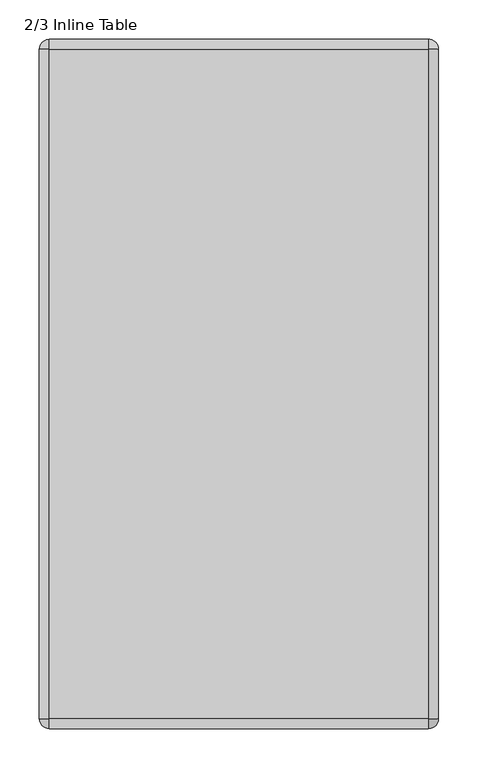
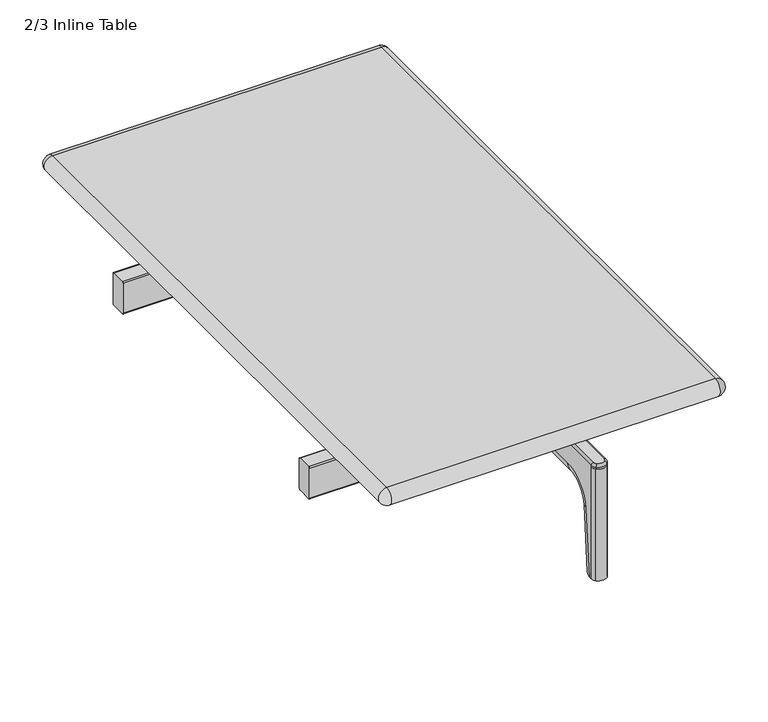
"""IFC4 building model written with IfcOpenShell, lengths in millimetres: furniture geometry, Stylex - NYC - Table : 2/3 Inline Table."""

from ifc_helpers import new_model, si_unit, point, frame, frame_2d, origin, place, context, project, spatial, polyline, circle_curve, ellipse_curve, trimmed, segment, composite_curve, outline, extrude, source, transform, mapped, element, save
from ifc_brep_helpers import plane_surface, cylinder_surface, revolved_surface, advanced_brep


def furniture_2_3_inline_table_7cb0f604(model_context):
    return source(origin(), model_context, "Body", "SolidModel", [
        advanced_brep(
        [(93.4701881, -378.0154739, 0.0), (109.7298119, -378.0154739, 0.0), (109.7298119, -378.0154739, 173.4104691), (93.4701881, -378.0154739, 173.4104691), (112.7125, -371.5725657, 0.0), (112.7125, -371.5725657, 173.4104691), (90.4875, -371.5725657, 0.0), (90.4875, -371.5725657, 173.4104691), (90.4875, -371.5725657, 176.5854691), (93.4701881, -378.0154739, 176.5854691), (95.5244754, -375.594621, 179.7604691), (93.6625, -371.5725657, 179.7604691), (109.7298119, -378.0154739, 176.5854691), (107.6755246, -375.594621, 179.7604691), (112.7125, -371.5725657, 176.5854691), (109.5375, -371.5725657, 179.7604691), (109.5375, -262.257522, 179.7604691), (107.95, -262.257522, 179.7604691), (95.25, -262.257522, 179.7604691), (93.6625, -262.257522, 179.7604691), (90.4875, 358.8290995, 101.6111748), (90.4875, 311.893435, 144.6197874), (90.4875, -311.893435, 144.6197874), (90.4875, -358.8290995, 101.6111748), (90.4875, -367.7189254, 0.0), (90.4875, -262.257522, 176.5854691), (90.4875, -252.7455757, 185.6119691), (90.4875, -251.0740792, 217.506021), (90.4875, 251.0339077, 217.506021), (90.4875, 252.7054041, 185.6119691), (90.4875, 262.2173504, 176.5854691), (90.4875, 371.5725657, 176.5854691), (90.4875, 371.5725657, 173.4104691), (90.4875, 371.5725657, 0.0), (90.4875, 367.7189254, 0.0), (112.7125, -358.8290995, 101.6111748), (112.7125, -311.893435, 144.6197874), (112.7125, 311.893435, 144.6197874), (112.7125, 358.8290995, 101.6111748), (112.7125, 367.7189254, 0.0), (112.7125, 371.5725657, 0.0), (112.7125, 371.5725657, 173.4104691), (112.7125, 371.5725657, 176.5854691), (112.7125, 262.2173504, 176.5854691), (112.7125, 252.7054041, 185.6119691), (112.7125, 251.0339077, 217.506021), (112.7125, -251.0740792, 217.506021), (112.7125, -252.7455757, 185.6119691), (112.7125, -262.257522, 176.5854691), (112.7125, -367.7189254, 0.0), (96.5129306, -343.3185004, 100.2541732), (96.5129306, -352.089604, 0.0), (106.6870694, -343.3185004, 100.2541732), (106.6870694, -352.089604, 0.0), (96.5129306, -311.893435, 129.0499403), (106.6870694, -311.893435, 129.0499403), (96.5129306, 311.893435, 129.0499403), (106.6870694, 311.893435, 129.0499403), (96.5129306, 343.3185004, 100.2541732), (106.6870694, 343.3185004, 100.2541732), (96.5129306, 352.089604, 0.0), (106.6870694, 352.089604, 0.0), (93.4701881, 378.0154739, 0.0), (109.7298119, 378.0154739, 0.0), (107.95, -255.9162244, 185.7781358), (95.25, -255.9162244, 185.7781358), (109.5375, -255.9162244, 185.7781358), (109.5375, -254.0870417, 220.681021), (93.6625, -254.0870417, 220.681021), (93.6625, -255.9162244, 185.7781358), (93.6625, 254.0468702, 220.681021), (109.5375, 254.0468702, 220.681021), (107.95, 255.8760529, 185.7781358), (95.25, 255.8760529, 185.7781358), (93.6625, 255.8760529, 185.7781358), (109.5375, 255.8760529, 185.7781358), (107.95, 262.2173504, 179.7604691), (95.25, 262.2173504, 179.7604691), (109.5375, 262.2173504, 179.7604691), (109.5375, 371.5725657, 179.7604691), (107.6755246, 375.594621, 179.7604691), (95.5244754, 375.594621, 179.7604691), (93.6625, 371.5725657, 179.7604691), (93.6625, 262.2173504, 179.7604691), (93.4701881, 378.0154739, 173.4104691), (109.7298119, 378.0154739, 173.4104691), (93.4701881, 378.0154739, 176.5854691), (109.7298119, 378.0154739, 176.5854691)],
        [
            (0, 1, circle_curve(frame((101.6, -368.4349839, 0.0), z_axis=(0.0, 0.0, 1.0), x_axis=(-1.0, 0.0, 0.0)), 12.5650161)),
            (1, 2),
            (2, 3, circle_curve(frame((101.6, -368.4349839, 173.4104691), z_axis=(0.0, 0.0, -1.0), x_axis=(-1.0, 0.0, 0.0)), 12.5650161)),
            (3, 0),
            (1, 4, circle_curve(frame((104.2624891, -371.5725657, 0.0), z_axis=(0.0, 0.0, 1.0), x_axis=(-1.0, 0.0, 0.0)), 8.4500109)),
            (4, 5),
            (5, 2, circle_curve(frame((104.2624891, -371.5725657, 173.4104691), z_axis=(0.0, 0.0, -1.0), x_axis=(-1.0, 0.0, 0.0)), 8.4500109)),
            (6, 0, circle_curve(frame((98.9375109, -371.5725657, 0.0), z_axis=(0.0, 0.0, 1.0), x_axis=(-1.0, 0.0, 0.0)), 8.4500109)),
            (3, 7, circle_curve(frame((98.9375109, -371.5725657, 173.4104691), z_axis=(0.0, 0.0, -1.0), x_axis=(-1.0, 0.0, 0.0)), 8.4500109)),
            (7, 6),
            (8, 9, circle_curve(frame((98.9375109, -371.5725657, 176.5854691), z_axis=(0.0, 0.0, 1.0), x_axis=(-1.0, 0.0, 0.0)), 8.4500109)),
            (9, 10, circle_curve(frame((95.5244754, -375.594621, 176.5854691), z_axis=(-0.7624733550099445, 0.647019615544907, 0.0), x_axis=(0.647019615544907, 0.7624733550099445, 0.0)), 3.175)),
            (10, 11, circle_curve(frame((98.9375109, -371.5725657, 179.7604691), z_axis=(0.0, 0.0, -1.0), x_axis=(-1.0, 0.0, 0.0)), 5.2750109)),
            (11, 8, circle_curve(frame((93.6625, -371.5725657, 176.5854691), z_axis=(0.0, -1.0, 0.0), x_axis=(1.0, 0.0, 0.0)), 3.175)),
            (8, 7),
            (3, 9),
            (9, 12, circle_curve(frame((101.6, -368.4349839, 176.5854691), z_axis=(0.0, 0.0, 1.0), x_axis=(-0.6470196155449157, -0.762473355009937, 0.0)), 12.5650161)),
            (12, 13, circle_curve(frame((107.6755246, -375.594621, 176.5854691), z_axis=(-0.7624733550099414, -0.6470196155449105, 0.0), x_axis=(-0.6470196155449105, 0.7624733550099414, 0.0)), 3.175)),
            (13, 10, circle_curve(frame((101.6, -368.4349839, 179.7604691), z_axis=(0.0, 0.0, -1.0), x_axis=(-0.6470196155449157, -0.762473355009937, 0.0)), 9.3900161)),
            (2, 12),
            (12, 14, circle_curve(frame((104.2624891, -371.5725657, 176.5854691), z_axis=(0.0, 0.0, 1.0), x_axis=(0.6470196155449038, -0.7624733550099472, 0.0)), 8.4500109)),
            (14, 15, circle_curve(frame((109.5375, -371.5725657, 176.5854691), z_axis=(0.0, -1.0, 0.0), x_axis=(-1.0, 0.0, 0.0)), 3.175)),
            (15, 13, circle_curve(frame((104.2624891, -371.5725657, 179.7604691), z_axis=(0.0, 0.0, -1.0), x_axis=(0.6470196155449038, -0.7624733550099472, 0.0)), 5.2750109)),
            (5, 14),
            (15, 16),
            (16, 17),
            (17, 18),
            (18, 19),
            (19, 11),
            (20, 21, circle_curve(frame((90.4875, 311.893435, 97.5048362), z_axis=(1.0, 0.0, 0.0), x_axis=(0.0, 0.0, 1.0)), 47.1149511)),
            (21, 22),
            (22, 23, circle_curve(frame((90.4875, -311.893435, 97.5048362), z_axis=(1.0, 0.0, 0.0), x_axis=(0.0, -0.9961946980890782, 0.08715574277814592)), 47.1149511)),
            (23, 24),
            (24, 6),
            (8, 25),
            (25, 26, circle_curve(frame((90.4875, -262.257522, 186.1104691), z_axis=(1.0, 0.0, 0.0), x_axis=(0.0, 0.9986295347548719, -0.0523359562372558)), 9.525)),
            (26, 27),
            (27, 28),
            (28, 29),
            (29, 30, circle_curve(frame((90.4875, 262.2173504, 186.1104691), z_axis=(1.0, 0.0, 0.0), x_axis=(0.0, 0.0, -1.0)), 9.525)),
            (30, 31),
            (31, 32),
            (32, 33),
            (33, 34),
            (34, 20),
            (35, 36, circle_curve(frame((112.7125, -311.893435, 97.5048362), z_axis=(-1.0, 0.0, 0.0), x_axis=(0.0, -0.9961946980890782, 0.08715574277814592)), 47.1149511)),
            (36, 37),
            (37, 38, circle_curve(frame((112.7125, 311.893435, 97.5048362), z_axis=(-1.0, 0.0, 0.0), x_axis=(0.0, 0.0, 1.0)), 47.1149511)),
            (38, 39),
            (39, 40),
            (40, 41),
            (41, 42),
            (42, 43),
            (43, 44, circle_curve(frame((112.7125, 262.2173504, 186.1104691), z_axis=(-1.0, 0.0, 0.0), x_axis=(0.0, -0.9986295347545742, -0.05233595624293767)), 9.525)),
            (44, 45),
            (45, 46),
            (46, 47),
            (47, 48, circle_curve(frame((112.7125, -262.257522, 186.1104691), z_axis=(-1.0, 0.0, 0.0), x_axis=(0.0, 0.0, -1.0)), 9.525)),
            (48, 14),
            (4, 49),
            (49, 35),
            (23, 50, circle_curve(frame((113.6166315, -358.8290995, 101.6111748), z_axis=(0.0, -0.08715574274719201, -0.9961946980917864), x_axis=(1.0, 0.0, 0.0)), 23.1291315)),
            (50, 51),
            (51, 24, ellipse_curve(frame((113.6166315, -367.7189254, 0.0), z_axis=(0.0, 0.0, 1.0), x_axis=(0.0, -1.0, 0.0)), 23.217481, 23.1291315)),
            (50, 52, circle_curve(frame((101.6, -347.9317414, 100.6577795), z_axis=(0.0, -0.08715574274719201, -0.9961946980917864), x_axis=(-1.0, 0.0, 0.0)), 6.8791835)),
            (52, 53),
            (53, 51, ellipse_curve(frame((101.6, -356.738156, 0.0), z_axis=(0.0, 0.0, 1.0), x_axis=(0.0, -1.0, 0.0)), 6.9054609, 6.8791835)),
            (52, 35, circle_curve(frame((89.5833685, -358.8290995, 101.6111748), z_axis=(0.0, -0.08715574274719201, -0.9961946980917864), x_axis=(-1.0, 0.0, 0.0)), 23.1291315)),
            (49, 53, ellipse_curve(frame((89.5833685, -367.7189254, 0.0), z_axis=(0.0, 0.0, 1.0), x_axis=(0.0, -1.0, 0.0)), 23.217481, 23.1291315)),
            (22, 54, circle_curve(frame((113.6166315, -311.893435, 144.6197874), z_axis=(0.0, -1.0, 0.0), x_axis=(1.0, 0.0, 0.0)), 23.1291315)),
            (54, 50, circle_curve(frame((96.5129306, -311.893435, 97.5048362), z_axis=(1.0, 0.0, 0.0), x_axis=(0.0, -0.9961946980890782, 0.08715574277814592)), 31.545104)),
            (54, 55, circle_curve(frame((101.6, -311.893435, 133.6808031), z_axis=(0.0, -1.0, 0.0), x_axis=(-1.0, 0.0, 0.0)), 6.8791835)),
            (55, 52, circle_curve(frame((106.6870694, -311.893435, 97.5048362), z_axis=(1.0, 0.0, 0.0), x_axis=(0.0, -0.9961946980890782, 0.08715574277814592)), 31.545104)),
            (55, 36, circle_curve(frame((89.5833685, -311.893435, 144.6197874), z_axis=(0.0, -1.0, 0.0), x_axis=(-1.0, 0.0, 0.0)), 23.1291315)),
            (21, 56, circle_curve(frame((113.6166315, 311.893435, 144.6197874), z_axis=(0.0, -1.0, 0.0), x_axis=(1.0, 0.0, 0.0)), 23.1291315)),
            (56, 54),
            (56, 57, circle_curve(frame((101.6, 311.893435, 133.6808031), z_axis=(0.0, -1.0, 0.0), x_axis=(-1.0, 0.0, 0.0)), 6.8791835)),
            (57, 55),
            (57, 37, circle_curve(frame((89.5833685, 311.893435, 144.6197874), z_axis=(0.0, -1.0, 0.0), x_axis=(-1.0, 0.0, 0.0)), 23.1291315)),
            (20, 58, circle_curve(frame((113.6166315, 358.8290995, 101.6111748), z_axis=(0.0, -0.0871557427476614, 0.9961946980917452), x_axis=(1.0, 0.0, 0.0)), 23.1291315)),
            (58, 56, circle_curve(frame((96.5129306, 311.893435, 97.5048362), z_axis=(1.0, 0.0, 0.0), x_axis=(0.0, 0.0, 1.0)), 31.545104)),
            (58, 59, circle_curve(frame((101.6, 347.9317414, 100.6577795), z_axis=(0.0, -0.08715574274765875, 0.9961946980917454), x_axis=(-1.0, 0.0, 0.0)), 6.8791835)),
            (59, 57, circle_curve(frame((106.6870694, 311.893435, 97.5048362), z_axis=(1.0, 0.0, 0.0), x_axis=(0.0, 0.0, 1.0)), 31.545104)),
            (59, 38, circle_curve(frame((89.5833685, 358.8290995, 101.6111748), z_axis=(0.0, -0.08715574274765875, 0.9961946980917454), x_axis=(-1.0, 0.0, 0.0)), 23.1291315)),
            (34, 60, ellipse_curve(frame((113.6166315, 367.7189254, 0.0), z_axis=(0.0, 0.0, 1.0), x_axis=(0.0, -1.0, 0.0)), 23.217481, 23.1291315)),
            (60, 58),
            (60, 61, ellipse_curve(frame((101.6, 356.738156, 0.0), z_axis=(0.0, 0.0, 1.0), x_axis=(0.0, -1.0, 0.0)), 6.9054609, 6.8791835)),
            (61, 59),
            (61, 39, ellipse_curve(frame((89.5833685, 367.7189254, 0.0), z_axis=(0.0, 0.0, 1.0), x_axis=(0.0, -1.0, 0.0)), 23.217481, 23.1291315)),
            (33, 62, circle_curve(frame((98.9375109, 371.5725657, 0.0), z_axis=(0.0, 0.0, -1.0), x_axis=(-1.0, 0.0, 0.0)), 8.4500109)),
            (62, 63, circle_curve(frame((101.6, 368.4349839, 0.0), z_axis=(0.0, 0.0, -1.0), x_axis=(-1.0, 0.0, 0.0)), 12.5650161)),
            (63, 40, circle_curve(frame((104.2624891, 371.5725657, 0.0), z_axis=(0.0, 0.0, -1.0), x_axis=(-1.0, 0.0, 0.0)), 8.4500109)),
            (17, 64, circle_curve(frame((107.95, -262.257522, 186.1104691), z_axis=(1.0, 0.0, 0.0), x_axis=(0.0, -1.0, 0.0)), 6.35)),
            (64, 65),
            (65, 18, circle_curve(frame((95.25, -262.257522, 186.1104691), z_axis=(-1.0, 0.0, 0.0), x_axis=(0.0, -1.0, 0.0)), 6.35)),
            (64, 66),
            (66, 67),
            (67, 68),
            (68, 69),
            (69, 65),
            (70, 68),
            (67, 71),
            (71, 70),
            (72, 73),
            (73, 74),
            (74, 70),
            (71, 75),
            (75, 72),
            (72, 76, circle_curve(frame((107.95, 262.2173504, 186.1104691), z_axis=(1.0, 0.0, 0.0), x_axis=(0.0, -1.0, 0.0)), 6.35)),
            (76, 77),
            (77, 73, circle_curve(frame((95.25, 262.2173504, 186.1104691), z_axis=(-1.0, 0.0, 0.0), x_axis=(0.0, -1.0, 0.0)), 6.35)),
            (76, 78),
            (78, 79),
            (79, 80, circle_curve(frame((104.2624891, 371.5725657, 179.7604691), z_axis=(0.0, 0.0, 1.0), x_axis=(0.6470196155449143, 0.7624733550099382, 0.0)), 5.2750109)),
            (80, 81, circle_curve(frame((101.6, 368.4349839, 179.7604691), z_axis=(0.0, 0.0, 1.0), x_axis=(-0.6470196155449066, 0.7624733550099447, 0.0)), 9.3900161)),
            (81, 82, circle_curve(frame((98.9375109, 371.5725657, 179.7604691), z_axis=(0.0, 0.0, 1.0), x_axis=(-1.0, 0.0, 0.0)), 5.2750109)),
            (82, 83),
            (83, 77),
            (62, 84),
            (84, 85, circle_curve(frame((101.6, 368.4349839, 173.4104691), z_axis=(0.0, 0.0, -1.0), x_axis=(-1.0, 0.0, 0.0)), 12.5650161)),
            (85, 63),
            (85, 41, circle_curve(frame((104.2624891, 371.5725657, 173.4104691), z_axis=(0.0, 0.0, -1.0), x_axis=(-1.0, 0.0, 0.0)), 8.4500109)),
            (32, 84, circle_curve(frame((98.9375109, 371.5725657, 173.4104691), z_axis=(0.0, 0.0, -1.0), x_axis=(-1.0, 0.0, 0.0)), 8.4500109)),
            (86, 31, circle_curve(frame((98.9375109, 371.5725657, 176.5854691), z_axis=(0.0, 0.0, 1.0), x_axis=(-1.0, 0.0, 0.0)), 8.4500109)),
            (31, 82, circle_curve(frame((93.6625, 371.5725657, 176.5854691), z_axis=(0.0, 1.0, 0.0), x_axis=(-1.0, 0.0, 0.0)), 3.175)),
            (81, 86, circle_curve(frame((95.5244754, 375.594621, 176.5854691), z_axis=(-0.7624733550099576, -0.6470196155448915, 0.0), x_axis=(-0.6470196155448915, 0.7624733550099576, 0.0)), 3.175)),
            (86, 84),
            (80, 87, circle_curve(frame((107.6755246, 375.594621, 176.5854691), z_axis=(-0.762473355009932, 0.6470196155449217, 0.0), x_axis=(0.6470196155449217, 0.762473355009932, 0.0)), 3.175)),
            (87, 86, circle_curve(frame((101.6, 368.4349839, 176.5854691), z_axis=(0.0, 0.0, 1.0), x_axis=(-0.6470196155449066, 0.7624733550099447, 0.0)), 12.5650161)),
            (87, 85),
            (79, 42, circle_curve(frame((109.5375, 371.5725657, 176.5854691), z_axis=(0.0, 1.0, 0.0), x_axis=(1.0, 0.0, 0.0)), 3.175)),
            (42, 87, circle_curve(frame((104.2624891, 371.5725657, 176.5854691), z_axis=(0.0, 0.0, 1.0), x_axis=(0.6470196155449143, 0.7624733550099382, 0.0)), 8.4500109)),
            (30, 83, circle_curve(frame((93.6625, 262.2173504, 176.5854691), z_axis=(0.0, 1.0, 0.0), x_axis=(0.0, 0.0, 1.0)), 3.175)),
            (29, 74, circle_curve(frame((93.6625, 252.7054041, 185.6119691), z_axis=(0.0, 0.05233595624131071, -0.9986295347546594), x_axis=(0.0, 0.9986295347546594, 0.05233595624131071)), 3.175)),
            (74, 83, circle_curve(frame((93.6625, 262.2173504, 186.1104691), z_axis=(1.0, 0.0, 0.0), x_axis=(0.0, 0.0, -1.0)), 6.35)),
            (28, 70, ellipse_curve(frame((93.6625, 251.0339077, 217.506021), z_axis=(0.0, 0.7253743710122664, -0.6883545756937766), x_axis=(0.0, -0.6883545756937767, -0.725374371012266)), 4.3770502, 3.175)),
            (27, 68, ellipse_curve(frame((93.6625, -251.0740792, 217.506021), z_axis=(0.0, 0.7253743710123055, 0.6883545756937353), x_axis=(0.0, 0.688354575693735, -0.7253743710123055)), 4.3770502, 3.175)),
            (19, 25, circle_curve(frame((93.6625, -262.257522, 176.5854691), z_axis=(0.0, -1.0, 0.0), x_axis=(0.0, 0.0, 1.0)), 3.175)),
            (48, 16, circle_curve(frame((109.5375, -262.257522, 176.5854691), z_axis=(0.0, -1.0, 0.0), x_axis=(0.0, 0.0, 1.0)), 3.175)),
            (45, 71, ellipse_curve(frame((109.5375, 251.0339077, 217.506021), z_axis=(0.0, -0.7253743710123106, 0.6883545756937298), x_axis=(0.0, -0.6883545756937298, -0.7253743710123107)), 4.3770502, 3.175)),
            (67, 46, ellipse_curve(frame((109.5375, -251.0740792, 217.506021), z_axis=(0.0, 0.7253743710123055, 0.688354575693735), x_axis=(0.0, -0.6883545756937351, 0.7253743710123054)), 4.3770502, 3.175)),
            (78, 43, circle_curve(frame((109.5375, 262.2173504, 176.5854691), z_axis=(0.0, 1.0, 0.0), x_axis=(0.0, 0.0, 1.0)), 3.175)),
            (26, 69, circle_curve(frame((93.6625, -252.7455757, 185.6119691), z_axis=(0.0, 0.05233595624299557, 0.9986295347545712), x_axis=(0.0, -0.9986295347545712, 0.05233595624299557)), 3.175)),
            (19, 69, circle_curve(frame((93.6625, -262.257522, 186.1104691), z_axis=(1.0, 0.0, 0.0), x_axis=(0.0, 0.9986295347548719, -0.0523359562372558)), 6.35)),
            (16, 66, circle_curve(frame((109.5375, -262.257522, 186.1104691), z_axis=(1.0, 0.0, 0.0), x_axis=(0.0, 0.0, -1.0)), 6.35)),
            (47, 66, circle_curve(frame((109.5375, -252.7455757, 185.6119691), z_axis=(0.0, -0.05233595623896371, -0.9986295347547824), x_axis=(0.0, -0.9986295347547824, 0.05233595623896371)), 3.175)),
            (44, 75, circle_curve(frame((109.5375, 252.7054041, 185.6119691), z_axis=(0.0, -0.052335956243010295, 0.9986295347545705), x_axis=(0.0, 0.9986295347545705, 0.052335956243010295)), 3.175)),
            (75, 78, circle_curve(frame((109.5375, 262.2173504, 186.1104691), z_axis=(1.0, 0.0, 0.0), x_axis=(0.0, -0.9986295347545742, -0.05233595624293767)), 6.35)),
        ],
        [
            cylinder_surface(frame((101.6, -368.4349839, 0.0), z_axis=(0.0, 0.0, 1.0), x_axis=(-1.0, 0.0, 0.0)), 12.5650161),
            cylinder_surface(frame((104.2624891, -371.5725657, 0.0), z_axis=(0.0, 0.0, 1.0), x_axis=(-1.0, 0.0, 0.0)), 8.4500109),
            cylinder_surface(frame((98.9375109, -371.5725657, 0.0), z_axis=(0.0, 0.0, 1.0), x_axis=(-1.0, 0.0, 0.0)), 8.4500109),
            revolved_surface(trimmed(ellipse_curve(frame((93.6625, -371.5725657, 176.5854691), z_axis=(0.0, 1.0, 0.0), x_axis=(1.0, 0.0, 0.0)), 3.175, 3.175), [point((90.4875, -371.5725657, 176.5854691))], [point((93.6625, -371.5725657, 179.7604691))], True, "CARTESIAN"), (98.9375109, -371.5725657, 0.0), (0.0, 0.0, 1.0)),
            revolved_surface(trimmed(ellipse_curve(frame((95.5244754, -375.594621, 176.5854691), z_axis=(-0.7624733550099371, 0.6470196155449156, 0.0), x_axis=(0.6470196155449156, 0.7624733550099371, 0.0)), 3.175, 3.175), [point((93.4701881, -378.0154739, 176.5854691))], [point((95.5244754, -375.594621, 179.7604691))], True, "CARTESIAN"), (101.6, -368.4349839, 0.0), (0.0, 0.0, 1.0)),
            cylinder_surface(frame((101.6, -368.4349839, 0.0), z_axis=(0.0, 0.0, 1.0), x_axis=(-0.6470196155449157, -0.762473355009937, 0.0)), 12.5650161),
            revolved_surface(trimmed(ellipse_curve(frame((107.6755246, -375.594621, 176.5854691), z_axis=(-0.762473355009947, -0.6470196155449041, 0.0), x_axis=(-0.6470196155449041, 0.762473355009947, 0.0)), 3.175, 3.175), [point((109.7298119, -378.0154739, 176.5854691))], [point((107.6755246, -375.594621, 179.7604691))], True, "CARTESIAN"), (104.2624891, -371.5725657, 0.0), (0.0, 0.0, 1.0)),
            cylinder_surface(frame((104.2624891, -371.5725657, 0.0), z_axis=(0.0, 0.0, 1.0), x_axis=(0.6470196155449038, -0.7624733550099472, 0.0)), 8.4500109),
            plane_surface(frame((107.95, -358.3895248, 179.7604691), z_axis=(0.0, 0.0, 1.0), x_axis=(0.0, 1.0, 0.0))),
            plane_surface(frame((90.4875, -372.2795024, -8.0803238), z_axis=(-1.0, 1.165065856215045e-12, 0.0), x_axis=(0.0, 0.08715574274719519, 0.9961946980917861))),
            plane_surface(frame((112.7125, -368.4551348, -8.4149126), z_axis=(1.0, 0.0, 0.0), x_axis=(0.0, 0.08715574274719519, 0.9961946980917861))),
            cylinder_surface(frame((113.6166315, -368.4551348, -8.4149126), z_axis=(0.0, -0.08715574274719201, -0.9961946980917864), x_axis=(1.0, 0.0, 0.0)), 23.1291315),
            cylinder_surface(frame((101.6, -357.5577767, -9.3683079), z_axis=(0.0, -0.08715574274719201, -0.9961946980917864), x_axis=(-1.0, 0.0, 0.0)), 6.8791835),
            cylinder_surface(frame((89.5833685, -368.4551348, -8.4149126), z_axis=(0.0, -0.08715574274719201, -0.9961946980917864), x_axis=(-1.0, 0.0, 0.0)), 23.1291315),
            revolved_surface(trimmed(ellipse_curve(frame((113.6166315, -358.8290995, 101.6111748), z_axis=(0.0, -0.08715574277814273, -0.9961946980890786), x_axis=(1.0, 0.0, 0.0)), 23.1291315, 23.1291315), [point((90.4875, -358.8290995, 101.6111748))], [point((96.5129306, -343.3185004, 100.2541732))], True, "CARTESIAN"), (101.6, -311.893435, 97.5048362), (-1.0, 0.0, 0.0)),
            revolved_surface(trimmed(ellipse_curve(frame((101.6, -347.9317414, 100.6577795), z_axis=(0.0, -0.08715574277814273, -0.9961946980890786), x_axis=(-1.0, 0.0, 0.0)), 6.8791835, 6.8791835), [point((96.5129306, -343.3185004, 100.2541732))], [point((106.6870694, -343.3185004, 100.2541732))], True, "CARTESIAN"), (101.6, -311.893435, 97.5048362), (-1.0, 0.0, 0.0)),
            revolved_surface(trimmed(ellipse_curve(frame((89.5833685, -358.8290995, 101.6111748), z_axis=(0.0, -0.08715574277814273, -0.9961946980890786), x_axis=(-1.0, 0.0, 0.0)), 23.1291315, 23.1291315), [point((106.6870694, -343.3185004, 100.2541732))], [point((112.7125, -358.8290995, 101.6111748))], True, "CARTESIAN"), (101.6, -311.893435, 97.5048362), (-1.0, 0.0, 0.0)),
            cylinder_surface(frame((113.6166315, -311.893435, 144.6197874), z_axis=(0.0, -1.0, 0.0), x_axis=(1.0, 0.0, 0.0)), 23.1291315),
            cylinder_surface(frame((101.6, -311.893435, 133.6808031), z_axis=(0.0, -1.0, 0.0), x_axis=(-1.0, 0.0, 0.0)), 6.8791835),
            cylinder_surface(frame((89.5833685, -311.893435, 144.6197874), z_axis=(0.0, -1.0, 0.0), x_axis=(-1.0, 0.0, 0.0)), 23.1291315),
            revolved_surface(trimmed(ellipse_curve(frame((113.6166315, 311.893435, 144.6197874), z_axis=(0.0, -1.0, 0.0), x_axis=(1.0, 0.0, 0.0)), 23.1291315, 23.1291315), [point((90.4875, 311.893435, 144.6197874))], [point((96.5129306, 311.893435, 129.0499403))], True, "CARTESIAN"), (101.6, 311.893435, 97.5048362), (-1.0, 0.0, 0.0)),
            revolved_surface(trimmed(ellipse_curve(frame((101.6, 311.893435, 133.6808031), z_axis=(0.0, -1.0, 0.0), x_axis=(-1.0, 0.0, 0.0)), 6.8791835, 6.8791835), [point((96.5129306, 311.893435, 129.0499403))], [point((106.6870694, 311.893435, 129.0499403))], True, "CARTESIAN"), (101.6, 311.893435, 97.5048362), (-1.0, 0.0, 0.0)),
            revolved_surface(trimmed(ellipse_curve(frame((89.5833685, 311.893435, 144.6197874), z_axis=(0.0, -1.0, 0.0), x_axis=(-1.0, 0.0, 0.0)), 23.1291315, 23.1291315), [point((106.6870694, 311.893435, 129.0499403))], [point((112.7125, 311.893435, 144.6197874))], True, "CARTESIAN"), (101.6, 311.893435, 97.5048362), (-1.0, 0.0, 0.0)),
            cylinder_surface(frame((113.6166315, 358.8290995, 101.6111748), z_axis=(0.0, -0.0871557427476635, 0.9961946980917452), x_axis=(1.0, 0.0, 0.0)), 23.1291315),
            cylinder_surface(frame((101.6, 347.9317414, 100.6577795), z_axis=(0.0, -0.0871557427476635, 0.9961946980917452), x_axis=(-1.0, 0.0, 0.0)), 6.8791835),
            cylinder_surface(frame((89.5833685, 358.8290995, 101.6111748), z_axis=(0.0, -0.0871557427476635, 0.9961946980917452), x_axis=(-1.0, 0.0, 0.0)), 23.1291315),
            plane_surface(frame((74.5871791, -410.528822, 0.0), z_axis=(0.0, 0.0, -1.0), x_axis=(1.0, 0.0, 0.0))),
            revolved_surface(polyline([(107.95, -268.607522, 186.1104691), (95.25, -268.607522, 186.1104691)]), (107.95, -262.257522, 186.1104691), (1.0, 0.0, 0.0)),
            plane_surface(frame((95.25, -255.9162244, 185.7781358), z_axis=(0.0, -0.9986295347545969, 0.052335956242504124), x_axis=(1.0, 0.0, 0.0))),
            plane_surface(frame((95.25, -254.0870417, 220.681021), z_axis=(0.0, 0.0, 1.0), x_axis=(1.0, 0.0, 0.0))),
            plane_surface(frame((95.25, 254.0468702, 220.681021), z_axis=(0.0, 0.9986295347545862, 0.05233595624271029), x_axis=(1.0, 0.0, 0.0))),
            revolved_surface(polyline([(107.95, 255.8673504, 186.1104691), (95.25, 255.8673504, 186.1104691)]), (107.95, 262.2173504, 186.1104691), (1.0, 0.0, 0.0)),
            plane_surface(frame((95.25, 262.2173504, 179.7604691), z_axis=(0.0, 0.0, 1.0), x_axis=(1.0, 0.0, 0.0))),
            cylinder_surface(frame((101.6, 368.4349839, 0.0), z_axis=(0.0, 0.0, 1.0), x_axis=(-1.0, 0.0, 0.0)), 12.5650161),
            cylinder_surface(frame((104.2624891, 371.5725657, 0.0), z_axis=(0.0, 0.0, 1.0), x_axis=(-1.0, 0.0, 0.0)), 8.4500109),
            cylinder_surface(frame((98.9375109, 371.5725657, 0.0), z_axis=(0.0, 0.0, 1.0), x_axis=(-1.0, 0.0, 0.0)), 8.4500109),
            revolved_surface(trimmed(ellipse_curve(frame((93.6625, 371.5725657, 176.5854691), z_axis=(0.0, -1.0, 0.0), x_axis=(-1.0, 0.0, 0.0)), 3.175, 3.175), [point((93.6625, 371.5725657, 179.7604691))], [point((90.4875, 371.5725657, 176.5854691))], True, "CARTESIAN"), (98.9375109, 371.5725657, 0.0), (0.0, 0.0, -1.0)),
            cylinder_surface(frame((98.9375109, 371.5725657, 0.0), z_axis=(0.0, 0.0, -1.0), x_axis=(-1.0, 0.0, 0.0)), 8.4500109),
            revolved_surface(trimmed(ellipse_curve(frame((95.5244754, 375.594621, 176.5854691), z_axis=(-0.7624733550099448, -0.6470196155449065, 0.0), x_axis=(-0.6470196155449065, 0.7624733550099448, 0.0)), 3.175, 3.175), [point((95.5244754, 375.594621, 179.7604691))], [point((93.4701881, 378.0154739, 176.5854691))], True, "CARTESIAN"), (101.6, 368.4349839, 0.0), (0.0, 0.0, -1.0)),
            cylinder_surface(frame((101.6, 368.4349839, 0.0), z_axis=(0.0, 0.0, -1.0), x_axis=(-0.6470196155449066, 0.7624733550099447, 0.0)), 12.5650161),
            revolved_surface(trimmed(ellipse_curve(frame((107.6755246, 375.594621, 176.5854691), z_axis=(-0.7624733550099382, 0.6470196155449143, 0.0), x_axis=(0.6470196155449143, 0.7624733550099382, 0.0)), 3.175, 3.175), [point((107.6755246, 375.594621, 179.7604691))], [point((109.7298119, 378.0154739, 176.5854691))], True, "CARTESIAN"), (104.2624891, 371.5725657, 0.0), (0.0, 0.0, -1.0)),
            cylinder_surface(frame((104.2624891, 371.5725657, 0.0), z_axis=(0.0, 0.0, -1.0), x_axis=(0.6470196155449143, 0.7624733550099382, 0.0)), 8.4500109),
            cylinder_surface(frame((93.6625, 371.5725657, 176.5854691), z_axis=(0.0, 1.0, 0.0), x_axis=(0.0, 0.0, 1.0)), 3.175),
            revolved_surface(trimmed(ellipse_curve(frame((93.6625, 262.2173504, 176.5854691), z_axis=(0.0, 1.0, 0.0), x_axis=(0.0, 0.0, 1.0)), 3.175, 3.175), [point((90.4875, 262.2173504, 176.5854691))], [point((93.6625, 262.2173504, 179.7604691))], True, "CARTESIAN"), (95.25, 262.2173504, 186.1104691), (-1.0, 0.0, 0.0)),
            revolved_surface(polyline([(93.6625, 262.2173504, 179.7604691), (95.25, 262.2173504, 179.7604691)]), (95.25, 262.2173504, 186.1104691), (-1.0, 0.0, 0.0)),
            cylinder_surface(frame((93.6625, 252.7054041, 185.6119691), z_axis=(0.0, 0.052335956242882, -0.9986295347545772), x_axis=(0.0, 0.9986295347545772, 0.052335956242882)), 3.175),
            cylinder_surface(frame((93.6625, 248.0209452, 217.506021), z_axis=(0.0, 1.0, 0.0), x_axis=(0.0, 0.0, 1.0)), 3.175),
            cylinder_surface(frame((93.6625, -262.257522, 176.5854691), z_axis=(0.0, 1.0, 0.0), x_axis=(0.0, 0.0, 1.0)), 3.175),
            cylinder_surface(frame((109.5375, -371.5725657, 176.5854691), z_axis=(0.0, -1.0, 0.0), x_axis=(0.0, 0.0, 1.0)), 3.175),
            cylinder_surface(frame((109.5375, -248.0611167, 217.506021), z_axis=(0.0, -1.0, 0.0), x_axis=(0.0, 0.0, 1.0)), 3.175),
            cylinder_surface(frame((109.5375, 262.2173504, 176.5854691), z_axis=(0.0, -1.0, 0.0), x_axis=(0.0, 0.0, 1.0)), 3.175),
            cylinder_surface(frame((93.6625, -251.2317655, 214.4971877), z_axis=(0.0, 0.05233595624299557, 0.9986295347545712), x_axis=(0.0, -0.9986295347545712, 0.05233595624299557)), 3.175),
            revolved_surface(trimmed(ellipse_curve(frame((93.6625, -252.7455757, 185.6119691), z_axis=(0.0, 0.05233595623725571, 0.9986295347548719), x_axis=(0.0, -0.9986295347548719, 0.05233595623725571)), 3.175, 3.175), [point((90.4875, -252.7455757, 185.6119691))], [point((93.6625, -255.9162244, 185.7781358))], True, "CARTESIAN"), (95.25, -262.257522, 186.1104691), (-1.0, 0.0, 0.0)),
            revolved_surface(polyline([(93.6625, -255.91622445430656, 185.77813577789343), (95.25, -255.91622445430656, 185.77813577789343)]), (95.25, -262.257522, 186.1104691), (-1.0, 0.0, 0.0)),
            revolved_surface(polyline([(109.5375, -262.257522, 179.7604691), (107.95, -262.257522, 179.7604691)]), (107.95, -262.257522, 186.1104691), (1.0, 0.0, 0.0)),
            revolved_surface(trimmed(ellipse_curve(frame((109.5375, -262.257522, 176.5854691), z_axis=(0.0, -1.0, 0.0), x_axis=(0.0, 0.0, 1.0)), 3.175, 3.175), [point((112.7125, -262.257522, 176.5854691))], [point((109.5375, -262.257522, 179.7604691))], True, "CARTESIAN"), (107.95, -262.257522, 186.1104691), (1.0, 0.0, 0.0)),
            cylinder_surface(frame((109.5375, -252.7455757, 185.6119691), z_axis=(0.0, -0.052335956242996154, -0.9986295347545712), x_axis=(0.0, -0.9986295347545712, 0.052335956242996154)), 3.175),
            cylinder_surface(frame((109.5375, 251.191594, 214.4971877), z_axis=(0.0, -0.052335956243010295, 0.9986295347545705), x_axis=(0.0, 0.9986295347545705, 0.052335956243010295)), 3.175),
            revolved_surface(polyline([(109.5375, 255.87605285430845, 185.77813577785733), (107.95, 255.87605285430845, 185.77813577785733)]), (107.95, 262.2173504, 186.1104691), (1.0, 0.0, 0.0)),
            revolved_surface(trimmed(ellipse_curve(frame((109.5375, 252.7054041, 185.6119691), z_axis=(0.0, -0.05233595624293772, 0.9986295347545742), x_axis=(0.0, 0.9986295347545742, 0.05233595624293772)), 3.175, 3.175), [point((112.7125, 252.7054041, 185.6119691))], [point((109.5375, 255.8760529, 185.7781358))], True, "CARTESIAN"), (107.95, 262.2173504, 186.1104691), (1.0, 0.0, 0.0)),
        ],
        [
            (0, [[1, 2, 3, 4]]),
            (1, [[5, 6, 7, -2]]),
            (2, [[8, -4, 9, 10]]),
            (3, [[11, 12, 13, 14]]),
            (2, [[-11, 15, -9, 16]]),
            (4, [[-12, 17, 18, 19]]),
            (5, [[-16, -3, 20, -17]]),
            (6, [[-18, 21, 22, 23]]),
            (7, [[-20, -7, 24, -21]]),
            (8, [[-13, -19, -23, 25, 26, 27, 28, 29]]),
            (9, [[30, 31, 32, 33, 34, -10, -15, 35, 36, 37, 38, 39, 40, 41, 42, 43, 44, 45]]),
            (10, [[46, 47, 48, 49, 50, 51, 52, 53, 54, 55, 56, 57, 58, 59, -24, -6, 60, 61]]),
            (11, [[62, 63, 64, -33]]),
            (12, [[65, 66, 67, -63]]),
            (13, [[68, -61, 69, -66]]),
            (14, [[-32, 70, 71, -62]]),
            (15, [[-65, -71, 72, 73]]),
            (16, [[-46, -68, -73, 74]]),
            (17, [[-31, 75, 76, -70]]),
            (18, [[-72, -76, 77, 78]]),
            (19, [[-47, -74, -78, 79]]),
            (20, [[-30, 80, 81, -75]]),
            (21, [[-77, -81, 82, 83]]),
            (22, [[-48, -79, -83, 84]]),
            (23, [[-80, -45, 85, 86]]),
            (24, [[-82, -86, 87, 88]]),
            (25, [[-84, -88, 89, -49]]),
            (26, [[-34, -64, -67, -69, -60, -5, -1, -8]]),
            (26, [[-44, 90, 91, 92, -50, -89, -87, -85]]),
            (27, [[-27, 93, 94, 95]]),
            (28, [[-94, 96, 97, 98, 99, 100]]),
            (29, [[101, -98, 102, 103]]),
            (30, [[104, 105, 106, -103, 107, 108]]),
            (31, [[-104, 109, 110, 111]]),
            (32, [[-110, 112, 113, 114, 115, 116, 117, 118]]),
            (33, [[-91, 119, 120, 121]]),
            (34, [[-92, -121, 122, -51]]),
            (35, [[-90, -43, 123, -119]]),
            (36, [[124, 125, -116, 126]]),
            (37, [[-124, 127, -123, -42]]),
            (38, [[-126, -115, 128, 129]]),
            (39, [[-127, -129, 130, -120]]),
            (40, [[-128, -114, 131, 132]]),
            (41, [[-130, -132, -52, -122]]),
            (42, [[-41, 133, -117, -125]]),
            (43, [[-133, -40, 134, 135]]),
            (44, [[-118, -135, -105, -111]]),
            (45, [[-39, 136, -106, -134]]),
            (46, [[-38, 137, -101, -136]]),
            (47, [[-35, -14, -29, 138]]),
            (48, [[-25, -22, -59, 139]]),
            (49, [[-56, 140, -102, 141]]),
            (50, [[-53, -131, -113, 142]]),
            (51, [[-37, 143, -99, -137]]),
            (52, [[-36, -138, 144, -143]]),
            (53, [[-28, -95, -100, -144]]),
            (54, [[-26, 145, -96, -93]]),
            (55, [[-58, 146, -145, -139]]),
            (56, [[-57, -141, -97, -146]]),
            (57, [[-55, 147, -107, -140]]),
            (58, [[-112, -109, -108, 148]]),
            (59, [[-54, -142, -148, -147]]),
        ],
    ),
        extrude(outline(composite_curve([segment(trimmed(circle_curve(frame_2d((-127.0, 237.3313838)), 9.525), [point((-127.0, 246.8563838))], [point((-127.0, 227.8063838))], False, "CARTESIAN"), True, "CONTINUOUS"), segment(trimmed(circle_curve(frame_2d((-127.0, 237.3313838)), 9.525), [point((-127.0, 227.8063838))], [point((-127.0, 246.8563838))], False, "CARTESIAN"), True, "CONTINUOUS")], self_intersect=False)), frame((0.0, 0.0, 220.681021), z_axis=(0.0, 0.0, 1.0), x_axis=(1.0, 0.0, 0.0)), (0.0, 0.0, 1.0), 42.8439913),
        extrude(outline(composite_curve([segment(trimmed(circle_curve(frame_2d((53.18125, 237.3313838)), 9.525), [point((53.18125, 246.8563838))], [point((53.18125, 227.8063838))], False, "CARTESIAN"), True, "CONTINUOUS"), segment(trimmed(circle_curve(frame_2d((53.18125, 237.3313838)), 9.525), [point((53.18125, 227.8063838))], [point((53.18125, 246.8563838))], False, "CARTESIAN"), True, "CONTINUOUS")], self_intersect=False)), frame((0.0, 0.0, 220.681021), z_axis=(0.0, 0.0, 1.0), x_axis=(1.0, 0.0, 0.0)), (0.0, 0.0, 1.0), 42.8439913),
        extrude(outline(composite_curve([segment(trimmed(circle_curve(frame_2d((-127.0, -237.3313838)), 9.525), [point((-127.0, -227.8063838))], [point((-127.0, -246.8563838))], False, "CARTESIAN"), True, "CONTINUOUS"), segment(trimmed(circle_curve(frame_2d((-127.0, -237.3313838)), 9.525), [point((-127.0, -246.8563838))], [point((-127.0, -227.8063838))], False, "CARTESIAN"), True, "CONTINUOUS")], self_intersect=False)), frame((0.0, 0.0, 220.681021), z_axis=(0.0, 0.0, 1.0), x_axis=(1.0, 0.0, 0.0)), (0.0, 0.0, 1.0), 42.8439913),
        extrude(outline(composite_curve([segment(trimmed(circle_curve(frame_2d((53.18125, -237.3313838)), 9.525), [point((53.18125, -227.8063838))], [point((53.18125, -246.8563838))], False, "CARTESIAN"), True, "CONTINUOUS"), segment(trimmed(circle_curve(frame_2d((53.18125, -237.3313838)), 9.525), [point((53.18125, -246.8563838))], [point((53.18125, -227.8063838))], False, "CARTESIAN"), True, "CONTINUOUS")], self_intersect=False)), frame((0.0, 0.0, 220.681021), z_axis=(0.0, 0.0, 1.0), x_axis=(1.0, 0.0, 0.0)), (0.0, 0.0, 1.0), 42.8439913),
        extrude(outline(polyline([(165.0998741, 349.2500169), (165.0998741, -349.2499831), (-165.0998741, -349.2499831), (-165.0998741, 349.2500169), (165.0998741, 349.2500169)])), frame((0.0, 0.0, 263.5250123), z_axis=(0.0, 0.0, 1.0), x_axis=(1.0, 0.0, 0.0)), (0.0, 0.0, 1.0), 2.4401501),
        advanced_brep(
        [(241.2997909, 425.4498999, 265.9651624), (-241.2997909, 425.4498999, 265.9651624), (-241.2997909, 425.4498999, 291.3651624), (241.2997909, 425.4498999, 291.3651624), (241.2997909, -425.4498999, 291.3651624), (-241.2997909, -425.4498999, 291.3651624), (-241.2997909, -425.4498999, 265.9651624), (241.2997909, -425.4498999, 265.9651624)],
        [
            (0, 1),
            (1, 2, circle_curve(frame((-241.2997909, 425.4498999, 278.6651624), z_axis=(1.0, 0.0, 0.0), x_axis=(0.0, 1.0, 0.0)), 12.7)),
            (2, 3),
            (3, 0, circle_curve(frame((241.2997909, 425.4498999, 278.6651624), z_axis=(-1.0, 0.0, 0.0), x_axis=(0.0, 1.0, 0.0)), 12.7)),
            (4, 5),
            (5, 6, circle_curve(frame((-241.2997909, -425.4498999, 278.6651624), z_axis=(1.0, 0.0, 0.0), x_axis=(0.0, 1.0, 0.0)), 12.7)),
            (6, 7),
            (7, 4, circle_curve(frame((241.2997909, -425.4498999, 278.6651624), z_axis=(-1.0, 0.0, 0.0), x_axis=(0.0, 1.0, 0.0)), 12.7)),
            (2, 5),
            (4, 3),
            (0, 7),
            (6, 1),
            (2, 1, circle_curve(frame((-241.2997909, 425.4498999, 278.6651624), z_axis=(0.0, -1.0, 0.0), x_axis=(0.0, 0.0, 1.0)), 12.7)),
            (6, 5, circle_curve(frame((-241.2997909, -425.4498999, 278.6651624), z_axis=(0.0, 1.0, 0.0), x_axis=(0.0, 0.0, 1.0)), 12.7)),
            (4, 7, circle_curve(frame((241.2997909, -425.4498999, 278.6651624), z_axis=(0.0, 1.0, 0.0), x_axis=(0.0, 0.0, 1.0)), 12.7)),
            (0, 3, circle_curve(frame((241.2997909, 425.4498999, 278.6651624), z_axis=(0.0, -1.0, 0.0), x_axis=(0.0, 0.0, 1.0)), 12.7)),
        ],
        [
            cylinder_surface(frame((-241.2997909, 425.4498999, 278.6651624), z_axis=(1.0, 0.0, 0.0), x_axis=(0.0, 1.0, 0.0)), 12.7),
            cylinder_surface(frame((-241.2997909, -425.4498999, 278.6651624), z_axis=(1.0, 0.0, 0.0), x_axis=(0.0, 1.0, 0.0)), 12.7),
            plane_surface(frame((241.2997909, 425.4498999, 291.3651624), z_axis=(0.0, 0.0, 1.0), x_axis=(-1.0, 0.0, 0.0))),
            plane_surface(frame((241.2997909, -425.4498999, 265.9651624), z_axis=(0.0, 0.0, -1.0), x_axis=(-1.0, 0.0, 0.0))),
            cylinder_surface(frame((-241.2997909, -425.4498999, 278.6651624), z_axis=(0.0, -1.0, 0.0), x_axis=(0.0, 0.0, 1.0)), 12.7),
            revolved_surface(trimmed(ellipse_curve(frame((-241.2997909, -425.4498999, 278.6651624), z_axis=(0.0, -1.0, 0.0), x_axis=(1.0, 0.0, 0.0)), 12.7, 12.7), [point((-241.2997909, -425.4498999, 291.3651624))], [point((-241.2997909, -425.4498999, 265.9651624))], True, "CARTESIAN"), (-241.2997909, -425.4498999, 291.3651624), (0.0, 0.0, -1.0)),
            cylinder_surface(frame((241.2997909, 425.4498999, 278.6651624), z_axis=(0.0, -1.0, 0.0), x_axis=(0.0, 0.0, 1.0)), 12.7),
            revolved_surface(trimmed(ellipse_curve(frame((241.2997909, -425.4498999, 278.6651624), z_axis=(0.0, -1.0, 0.0), x_axis=(1.0, 0.0, 0.0)), 12.7, 12.7), [point((241.2997909, -425.4498999, 265.9651624))], [point((241.2997909, -425.4498999, 291.3651624))], True, "CARTESIAN"), (241.2997909, -425.4498999, 291.3651624), (0.0, 0.0, 1.0)),
            revolved_surface(trimmed(ellipse_curve(frame((241.2997909, 425.4498999, 278.6651624), z_axis=(0.0, 1.0, 0.0), x_axis=(1.0, 0.0, 0.0)), 12.7, 12.7), [point((241.2997909, 425.4498999, 291.3651624))], [point((241.2997909, 425.4498999, 265.9651624))], True, "CARTESIAN"), (241.2997909, 425.4498999, 291.3651624), (0.0, 0.0, -1.0)),
            revolved_surface(trimmed(ellipse_curve(frame((-241.2997909, 425.4498999, 278.6651624), z_axis=(0.0, 1.0, 0.0), x_axis=(1.0, 0.0, 0.0)), 12.7, 12.7), [point((-241.2997909, 425.4498999, 265.9651624))], [point((-241.2997909, 425.4498999, 291.3651624))], True, "CARTESIAN"), (-241.2997909, 425.4498999, 291.3651624), (0.0, 0.0, 1.0)),
        ],
        [
            (0, [[1, 2, 3, 4]]),
            (1, [[5, 6, 7, 8]]),
            (2, [[-3, 9, -5, 10]]),
            (3, [[-1, 11, -7, 12]]),
            (4, [[-9, 13, -12, 14]]),
            (5, [[-6, -14]]),
            (6, [[-10, 15, -11, 16]]),
            (7, [[-8, -15]]),
            (8, [[-4, -16]]),
            (9, [[-2, -13]]),
        ],
    ),
        extrude(outline(composite_curve([segment(polyline([(-250.0310143, 172.3215643), (-250.0310143, 219.093521)]), True, "CONTINUOUS"), segment(trimmed(circle_curve(frame_2d((-248.4435143, 219.093521)), 1.5875), [point((-250.0310143, 219.093521))], [point((-248.4435143, 220.681021))], False, "CARTESIAN"), True, "CONTINUOUS"), segment(polyline([(-248.4435143, 220.681021), (-226.2191858, 220.681021)]), True, "CONTINUOUS"), segment(trimmed(circle_curve(frame_2d((-226.2191858, 219.093521)), 1.5875), [point((-226.2191858, 220.681021))], [point((-224.6316858, 219.093521))], False, "CARTESIAN"), True, "CONTINUOUS"), segment(polyline([(-224.6316858, 219.093521), (-224.6316858, 172.3215643)]), True, "CONTINUOUS"), segment(trimmed(circle_curve(frame_2d((-226.2191858, 172.3215643)), 1.5875), [point((-224.6316858, 172.3215643))], [point((-226.2191858, 170.7340643))], False, "CARTESIAN"), True, "CONTINUOUS"), segment(polyline([(-226.2191858, 170.7340643), (-248.4435143, 170.7340643)]), True, "CONTINUOUS"), segment(trimmed(circle_curve(frame_2d((-248.4435143, 172.3215643)), 1.5875), [point((-248.4435143, 170.7340643))], [point((-250.0310143, 172.3215643))], False, "CARTESIAN"), True, "CONTINUOUS")], self_intersect=False)), frame((-254.0, 0.0, 0.0), z_axis=(1.0, 0.0, 0.0), x_axis=(0.0, 1.0, 0.0)), (0.0, 0.0, 1.0), 344.4875),
        extrude(outline(composite_curve([segment(trimmed(circle_curve(frame_2d((248.4435481, 172.3215643)), 1.5875), [point((250.0310481, 172.3215643))], [point((248.4435481, 170.7340643))], False, "CARTESIAN"), True, "CONTINUOUS"), segment(polyline([(248.4435481, 170.7340643), (226.2192195, 170.7340643)]), True, "CONTINUOUS"), segment(trimmed(circle_curve(frame_2d((226.2192195, 172.3215643)), 1.5875), [point((226.2192195, 170.7340643))], [point((224.6317195, 172.3215643))], False, "CARTESIAN"), True, "CONTINUOUS"), segment(polyline([(224.6317195, 172.3215643), (224.6317195, 219.093521)]), True, "CONTINUOUS"), segment(trimmed(circle_curve(frame_2d((226.2192195, 219.093521)), 1.5875), [point((224.6317195, 219.093521))], [point((226.2192195, 220.681021))], False, "CARTESIAN"), True, "CONTINUOUS"), segment(polyline([(226.2192195, 220.681021), (248.4435481, 220.681021)]), True, "CONTINUOUS"), segment(trimmed(circle_curve(frame_2d((248.4435481, 219.093521)), 1.5875), [point((248.4435481, 220.681021))], [point((250.0310481, 219.093521))], False, "CARTESIAN"), True, "CONTINUOUS"), segment(polyline([(250.0310481, 219.093521), (250.0310481, 172.3215643)]), True, "CONTINUOUS")], self_intersect=False)), frame((-254.0, 0.0, 0.0), z_axis=(1.0, 0.0, 0.0), x_axis=(0.0, 1.0, 0.0)), (0.0, 0.0, 1.0), 344.4875),
    ])


if __name__ == "__main__":
    model = new_model("IFC4")
    model_context = context("Model", 3, world=origin())
    ifc_project = project(units=[si_unit("LENGTHUNIT", "METRE", prefix="MILLI")], contexts=[model_context])
    site = spatial("IfcSite", under=ifc_project)
    building = spatial("IfcBuilding", under=site)
    placement = place(None, origin())
    furniture_2_3_inline_table_shape = furniture_2_3_inline_table_7cb0f604(model_context)
    element("IfcFurniture", 1, ObjectType="Stylex - NYC - Table : 2/3 Inline Table", at=placement, inside=building, context=model_context, shape_type="MappedRepresentation", body=[
        mapped(furniture_2_3_inline_table_shape, transform((0.0, 0.0, 0.0), x_axis=(1.0, 0.0, 0.0), y_axis=(0.0, 1.0, 0.0), z_axis=(0.0, 0.0, 1.0))),
    ])
    save(model, "model.ifc")
